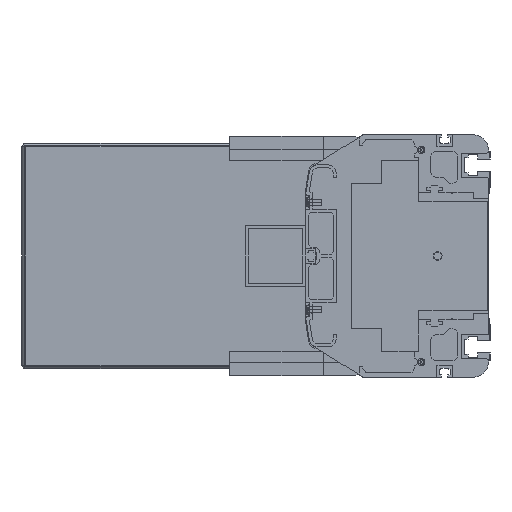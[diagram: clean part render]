
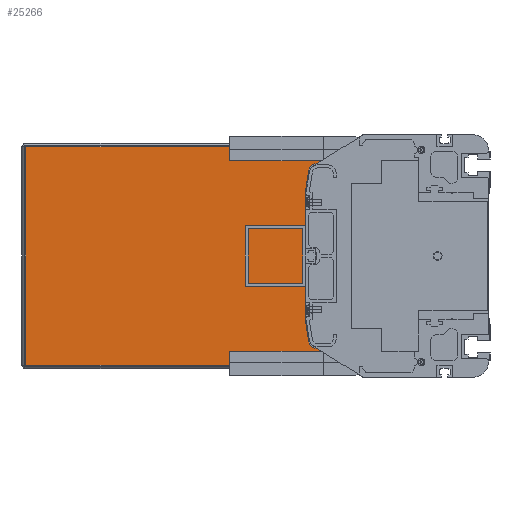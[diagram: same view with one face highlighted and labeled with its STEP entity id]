
A CAD part, left-side view. The second image highlights one B-rep face of the part: STEP entity #25266.
In plain terms, the highlighted planar face has unit normal (-1, 0, 0).
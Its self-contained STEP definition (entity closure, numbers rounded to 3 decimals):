
#1653=DIRECTION('',(0.,1.,0.));
#1654=VECTOR('',#1653,220.5);
#1655=CARTESIAN_POINT('',(4486.5,86.,72.));
#1656=LINE('',#1655,#1654);
#1704=DIRECTION('',(0.,-1.,0.));
#1705=VECTOR('',#1704,220.5);
#1706=CARTESIAN_POINT('',(4486.5,306.5,-72.));
#1707=LINE('',#1706,#1705);
#1763=DIRECTION('',(0.,0.,-1.));
#1764=VECTOR('',#1763,144.);
#1765=CARTESIAN_POINT('',(4486.5,306.5,72.));
#1766=LINE('',#1765,#1764);
#1797=CARTESIAN_POINT('',(4486.5,114.728,56.));
#1798=DIRECTION('',(-1.,0.,0.));
#1799=DIRECTION('',(0.,0.,1.));
#1800=AXIS2_PLACEMENT_3D('',#1797,#1798,#1799);
#1802=DIRECTION('',(0.,0.156,-0.988));
#1803=VECTOR('',#1802,14.963);
#1804=CARTESIAN_POINT('',(4486.5,119.666,56.78));
#1805=LINE('',#1804,#1803);
#1806=DIRECTION('',(0.,-0.156,-0.988));
#1807=VECTOR('',#1806,14.963);
#1808=CARTESIAN_POINT('',(4486.5,122.,-42.));
#1809=LINE('',#1808,#1807);
#1810=CARTESIAN_POINT('',(4486.5,114.728,-56.));
#1811=DIRECTION('',(-1.,0.,0.));
#1812=DIRECTION('',(0.,0.988,-0.156));
#1813=AXIS2_PLACEMENT_3D('',#1810,#1811,#1812);
#1820=DIRECTION('',(0.,0.,-1.));
#1821=VECTOR('',#1820,11.);
#1822=CARTESIAN_POINT('',(4486.5,86.,-61.));
#1823=LINE('',#1822,#1821);
#1829=DIRECTION('',(0.,0.,-1.));
#1830=VECTOR('',#1829,11.);
#1831=CARTESIAN_POINT('',(4486.5,86.,72.));
#1832=LINE('',#1831,#1830);
#3258=DIRECTION('',(0.,1.,0.));
#3259=VECTOR('',#3258,28.728);
#3260=CARTESIAN_POINT('',(4486.5,86.,-61.));
#3261=LINE('',#3260,#3259);
#3278=DIRECTION('',(0.,0.,1.));
#3279=VECTOR('',#3278,84.);
#3280=CARTESIAN_POINT('',(4486.5,122.,-42.));
#3281=LINE('',#3280,#3279);
#3302=DIRECTION('',(0.,-1.,0.));
#3303=VECTOR('',#3302,28.728);
#3304=CARTESIAN_POINT('',(4486.5,114.728,61.));
#3305=LINE('',#3304,#3303);
#19546=CARTESIAN_POINT('',(4486.5,306.5,-72.));
#19547=CARTESIAN_POINT('',(4486.5,86.,-72.));
#19548=VERTEX_POINT('',#19546);
#19549=VERTEX_POINT('',#19547);
#19550=CARTESIAN_POINT('',(4486.5,86.,-61.));
#19551=VERTEX_POINT('',#19550);
#19552=CARTESIAN_POINT('',(4486.5,114.728,-61.));
#19553=VERTEX_POINT('',#19552);
#19554=CARTESIAN_POINT('',(4486.5,119.666,-56.78));
#19555=VERTEX_POINT('',#19554);
#19556=CARTESIAN_POINT('',(4486.5,122.,-42.));
#19557=VERTEX_POINT('',#19556);
#19558=CARTESIAN_POINT('',(4486.5,122.,42.));
#19559=VERTEX_POINT('',#19558);
#19560=CARTESIAN_POINT('',(4486.5,119.666,56.78));
#19561=VERTEX_POINT('',#19560);
#19562=CARTESIAN_POINT('',(4486.5,114.728,61.));
#19563=VERTEX_POINT('',#19562);
#19564=CARTESIAN_POINT('',(4486.5,86.,61.));
#19565=VERTEX_POINT('',#19564);
#19566=CARTESIAN_POINT('',(4486.5,86.,72.));
#19567=VERTEX_POINT('',#19566);
#19568=CARTESIAN_POINT('',(4486.5,306.5,72.));
#19569=VERTEX_POINT('',#19568);
#25238=CARTESIAN_POINT('',(4486.5,196.25,0.));
#25239=DIRECTION('',(1.,0.,0.));
#25240=DIRECTION('',(0.,0.,-1.));
#25241=AXIS2_PLACEMENT_3D('',#25238,#25239,#25240);
#25242=PLANE('',#25241);
#25243=ORIENTED_EDGE('',*,*,#25111,.F.);
#25244=ORIENTED_EDGE('',*,*,#25207,.F.);
#25245=ORIENTED_EDGE('',*,*,#25062,.F.);
#25247=ORIENTED_EDGE('',*,*,#25246,.T.);
#25249=ORIENTED_EDGE('',*,*,#25248,.F.);
#25251=ORIENTED_EDGE('',*,*,#25250,.T.);
#25253=ORIENTED_EDGE('',*,*,#25252,.T.);
#25255=ORIENTED_EDGE('',*,*,#25254,.F.);
#25257=ORIENTED_EDGE('',*,*,#25256,.T.);
#25259=ORIENTED_EDGE('',*,*,#25258,.T.);
#25261=ORIENTED_EDGE('',*,*,#25260,.F.);
#25263=ORIENTED_EDGE('',*,*,#25262,.T.);
#25264=EDGE_LOOP('',(#25243,#25244,#25245,#25247,#25249,#25251,#25253,#25255,
#25257,#25259,#25261,#25263));
#25265=FACE_OUTER_BOUND('',#25264,.F.);
#25266=ADVANCED_FACE('',(#25265),#25242,.F.);
#1801=CIRCLE('',#1800,5.);
#1814=CIRCLE('',#1813,5.);
#25062=EDGE_CURVE('',#19567,#19569,#1656,.T.);
#25111=EDGE_CURVE('',#19548,#19549,#1707,.T.);
#25207=EDGE_CURVE('',#19569,#19548,#1766,.T.);
#25246=EDGE_CURVE('',#19567,#19565,#1832,.T.);
#25248=EDGE_CURVE('',#19563,#19565,#3305,.T.);
#25250=EDGE_CURVE('',#19563,#19561,#1801,.T.);
#25252=EDGE_CURVE('',#19561,#19559,#1805,.T.);
#25254=EDGE_CURVE('',#19557,#19559,#3281,.T.);
#25256=EDGE_CURVE('',#19557,#19555,#1809,.T.);
#25258=EDGE_CURVE('',#19555,#19553,#1814,.T.);
#25260=EDGE_CURVE('',#19551,#19553,#3261,.T.);
#25262=EDGE_CURVE('',#19551,#19549,#1823,.T.);
